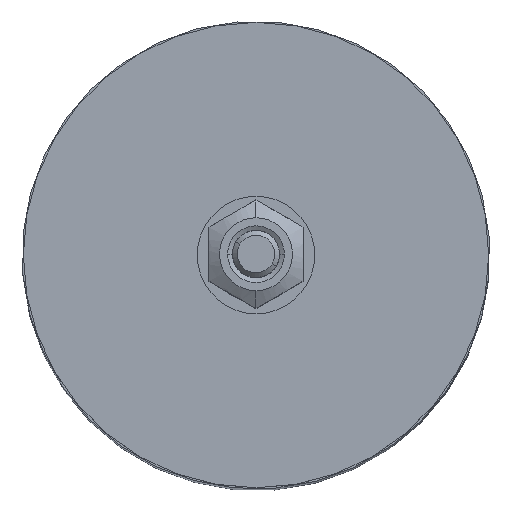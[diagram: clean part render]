
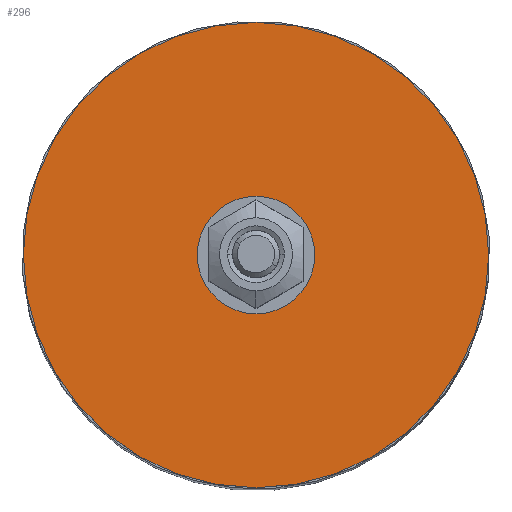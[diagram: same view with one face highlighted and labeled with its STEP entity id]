
A CAD part, top view. The second image highlights one B-rep face of the part: STEP entity #296.
In plain terms, the highlighted planar face has unit normal (0, 0, 1).
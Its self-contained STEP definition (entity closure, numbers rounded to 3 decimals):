
#296=ADVANCED_FACE('',(#480,#481),#482,.T.);
#480=FACE_OUTER_BOUND('',#696,.T.);
#481=FACE_BOUND('',#697,.T.);
#482=PLANE('',#698);
#696=EDGE_LOOP('',(#1266,#1267));
#697=EDGE_LOOP('',(#1268,#1269));
#698=AXIS2_PLACEMENT_3D('',#1270,#1271,#1272);
#1266=ORIENTED_EDGE('',*,*,#1595,.T.);
#1267=ORIENTED_EDGE('',*,*,#1627,.T.);
#1268=ORIENTED_EDGE('',*,*,#1626,.T.);
#1269=ORIENTED_EDGE('',*,*,#1597,.T.);
#1270=CARTESIAN_POINT('',(0.0,-4.95,61.0));
#1271=DIRECTION('',(0.0,0.0,1.0));
#1272=DIRECTION('',(1.0,0.0,0.0));
#1595=EDGE_CURVE('',#1875,#1879,#1881,.T.);
#1597=EDGE_CURVE('',#1885,#1882,#1886,.T.);
#1626=EDGE_CURVE('',#1882,#1885,#1932,.T.);
#1627=EDGE_CURVE('',#1879,#1875,#1933,.T.);
#1875=VERTEX_POINT('',#2482);
#1879=VERTEX_POINT('',#2487);
#1881=CIRCLE('',#2490,9.9);
#1882=VERTEX_POINT('',#2491);
#1885=VERTEX_POINT('',#2495);
#1886=CIRCLE('',#2496,2.5);
#1932=CIRCLE('',#2551,2.5);
#1933=CIRCLE('',#2552,9.9);
#2482=CARTESIAN_POINT('',(0.0,-9.9,61.0));
#2487=CARTESIAN_POINT('',(0.,9.9,61.0));
#2490=AXIS2_PLACEMENT_3D('',#2859,#2860,#2861);
#2491=CARTESIAN_POINT('',(0.0,-2.5,61.0));
#2495=CARTESIAN_POINT('',(0.,2.5,61.0));
#2496=AXIS2_PLACEMENT_3D('',#2863,#2864,#2865);
#2551=AXIS2_PLACEMENT_3D('',#2932,#2933,#2934);
#2552=AXIS2_PLACEMENT_3D('',#2935,#2936,#2937);
#2859=CARTESIAN_POINT('',(0.0,0.0,61.0));
#2860=DIRECTION('',(0.0,0.0,1.0));
#2861=DIRECTION('',(0.0,-1.0,0.0));
#2863=CARTESIAN_POINT('',(0.0,0.0,61.0));
#2864=DIRECTION('',(0.0,0.0,-1.0));
#2865=DIRECTION('',(0.0,-1.0,0.0));
#2932=CARTESIAN_POINT('',(0.0,0.0,61.0));
#2933=DIRECTION('',(0.0,0.0,-1.0));
#2934=DIRECTION('',(0.0,-1.0,0.0));
#2935=CARTESIAN_POINT('',(0.0,0.0,61.0));
#2936=DIRECTION('',(0.0,0.0,1.0));
#2937=DIRECTION('',(0.0,-1.0,0.0));
